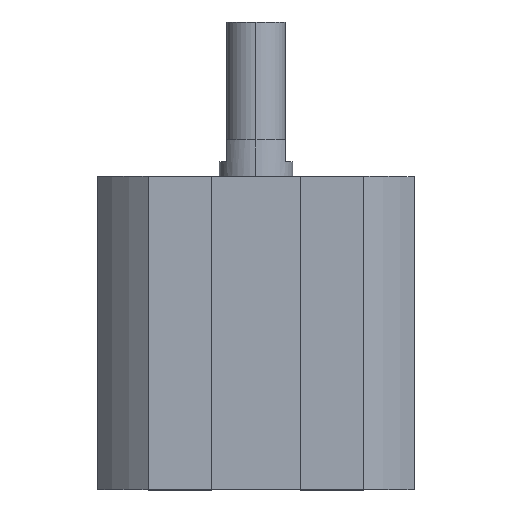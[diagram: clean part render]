
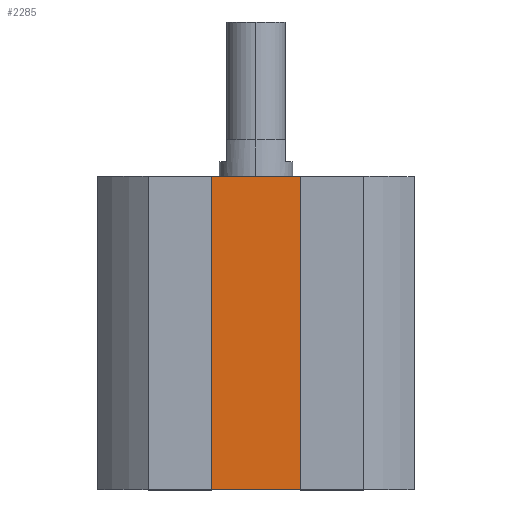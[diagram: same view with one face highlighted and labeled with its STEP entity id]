
A CAD part, top view. The second image highlights one B-rep face of the part: STEP entity #2285.
In plain terms, the highlighted planar face has unit normal (0, 0, 1).
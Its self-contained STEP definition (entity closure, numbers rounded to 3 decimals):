
#43 = DIRECTION ( 'NONE',  ( 0., 1., 0. ) ) ;
#47 = DIRECTION ( 'NONE',  ( 1., 0., 0. ) ) ;
#272 = CARTESIAN_POINT ( 'NONE',  ( 0., -42.5, 14. ) ) ;
#367 = DIRECTION ( 'NONE',  ( 0., 1., 0. ) ) ;
#427 = EDGE_CURVE ( 'NONE', #962, #1618, #1841, .T. ) ;
#492 = CARTESIAN_POINT ( 'NONE',  ( 0., 0., 14. ) ) ;
#553 = DIRECTION ( 'NONE',  ( 1., 0., 0. ) ) ;
#723 = CARTESIAN_POINT ( 'NONE',  ( -7.7, -42.5, 14. ) ) ;
#736 = PLANE ( 'NONE',  #1700 ) ;
#759 = VERTEX_POINT ( 'NONE', #1761 ) ;
#787 = CARTESIAN_POINT ( 'NONE',  ( 7.7, -42.5, 14. ) ) ;
#816 = DIRECTION ( 'NONE',  ( 0., 0., 1. ) ) ;
#928 = ORIENTED_EDGE ( 'NONE', *, *, #2094, .F. ) ;
#962 = VERTEX_POINT ( 'NONE', #2608 ) ;
#968 = CARTESIAN_POINT ( 'NONE',  ( 7.7, -42.5, 14. ) ) ;
#979 = ORIENTED_EDGE ( 'NONE', *, *, #2354, .T. ) ;
#1066 = CARTESIAN_POINT ( 'NONE',  ( -7.7, 0., 14. ) ) ;
#1210 = DIRECTION ( 'NONE',  ( 1., 0., 0. ) ) ;
#1366 = VECTOR ( 'NONE', #43, 1000. ) ;
#1426 = VECTOR ( 'NONE', #47, 1000. ) ;
#1538 = LINE ( 'NONE', #1679, #2606 ) ;
#1547 = EDGE_CURVE ( 'NONE', #962, #2255, #1538, .T. ) ;
#1618 = VERTEX_POINT ( 'NONE', #1066 ) ;
#1637 = EDGE_LOOP ( 'NONE', ( #928, #2548, #2650, #979 ) ) ;
#1679 = CARTESIAN_POINT ( 'NONE',  ( 0., -42.5, 14. ) ) ;
#1700 = AXIS2_PLACEMENT_3D ( 'NONE', #272, #816, #553 ) ;
#1761 = CARTESIAN_POINT ( 'NONE',  ( 7.7, 0., 14. ) ) ;
#1841 = LINE ( 'NONE', #723, #1366 ) ;
#2021 = LINE ( 'NONE', #787, #2399 ) ;
#2094 = EDGE_CURVE ( 'NONE', #1618, #759, #2678, .T. ) ;
#2165 = FACE_OUTER_BOUND ( 'NONE', #1637, .T. ) ;
#2255 = VERTEX_POINT ( 'NONE', #968 ) ;
#2285 = ADVANCED_FACE ( 'NONE', ( #2165 ), #736, .T. ) ;
#2354 = EDGE_CURVE ( 'NONE', #2255, #759, #2021, .T. ) ;
#2399 = VECTOR ( 'NONE', #367, 1000. ) ;
#2548 = ORIENTED_EDGE ( 'NONE', *, *, #427, .F. ) ;
#2606 = VECTOR ( 'NONE', #1210, 1000. ) ;
#2608 = CARTESIAN_POINT ( 'NONE',  ( -7.7, -42.5, 14. ) ) ;
#2650 = ORIENTED_EDGE ( 'NONE', *, *, #1547, .T. ) ;
#2678 = LINE ( 'NONE', #492, #1426 ) ;
